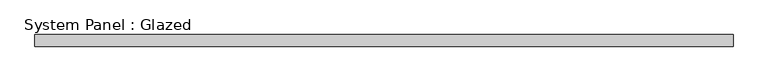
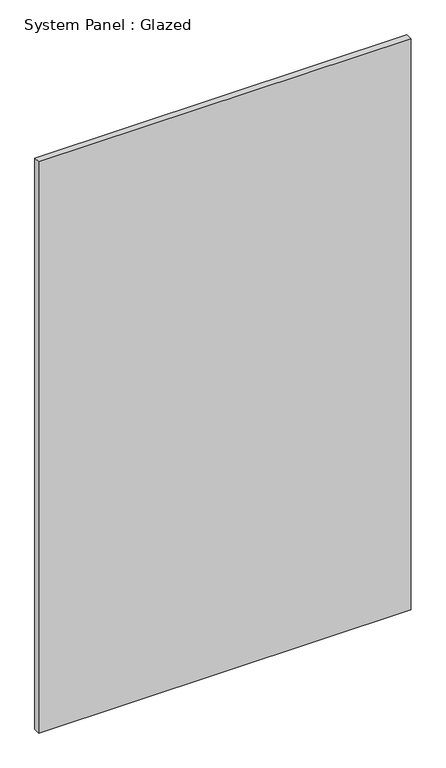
"""IFC4 building model written with IfcOpenShell, lengths in millimetres: plate geometry, System Panel : Glazed."""

from ifc_helpers import new_model, si_unit, origin, origin_with_axes, place, context, project, spatial, polyline, outline, extrude, source, transform, mapped, element, save


def system_panel_glazed_b38f2dba(model_context):
    return source(origin(), model_context, "Body", "SweptSolid", [
        extrude(outline(polyline([(725.0, 24.5), (-725.0, 24.5), (-725.0, 49.5), (725.0, 49.5), (725.0, 24.5)])), origin_with_axes(), (0.0, 0.0, 1.0), 2350.0),
    ])


if __name__ == "__main__":
    model = new_model("IFC4")
    model_context = context("Model", 3, world=origin())
    ifc_project = project(units=[si_unit("LENGTHUNIT", "METRE", prefix="MILLI")], contexts=[model_context])
    site = spatial("IfcSite", under=ifc_project)
    building = spatial("IfcBuilding", under=site)
    placement = place(None, origin())
    system_panel_glazed_shape = system_panel_glazed_b38f2dba(model_context)
    element("IfcPlate", 1, ObjectType="System Panel : Glazed", at=placement, inside=building, context=model_context, shape_type="MappedRepresentation", body=[
        mapped(system_panel_glazed_shape, transform((0.0, 0.0, 0.0), x_axis=(1.0, 0.0, 0.0), y_axis=(0.0, 1.0, 0.0), z_axis=(0.0, 0.0, 1.0))),
    ])
    save(model, "model.ifc")
